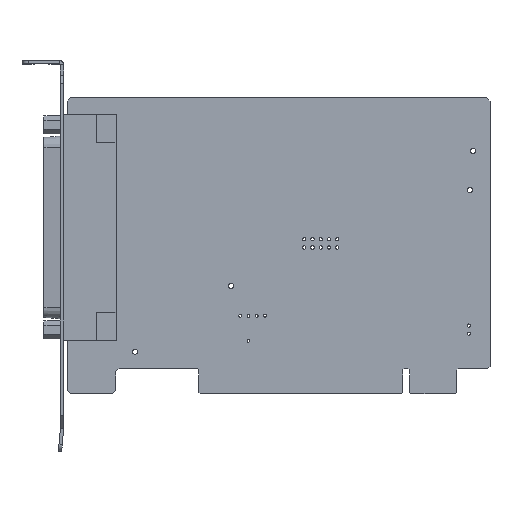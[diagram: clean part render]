
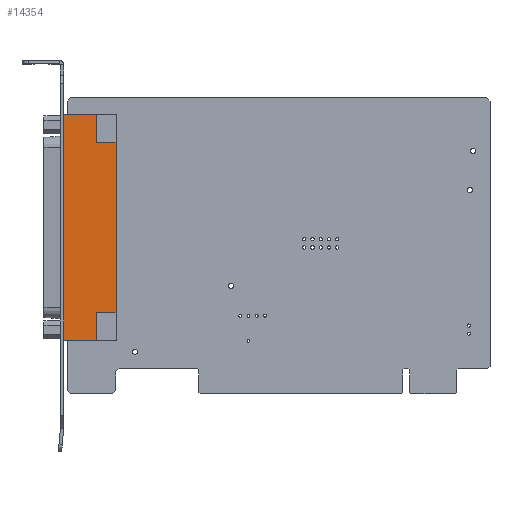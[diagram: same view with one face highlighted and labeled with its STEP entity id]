
A CAD part, top view. The second image highlights one B-rep face of the part: STEP entity #14354.
In plain terms, the highlighted planar face has unit normal (0, 0, 1).
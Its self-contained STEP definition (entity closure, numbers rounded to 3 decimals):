
#822 = VECTOR ( 'NONE', #942, 1000. ) ;
#942 = DIRECTION ( 'NONE',  ( 0., -1., 0. ) ) ;
#1268 = EDGE_CURVE ( 'NONE', #7265, #26143, #19434, .T. ) ;
#1518 = LINE ( 'NONE', #1673, #21638 ) ;
#1612 = PLANE ( 'NONE',  #2580 ) ;
#1673 = CARTESIAN_POINT ( 'NONE',  ( 15.04, 77.278, 12.5 ) ) ;
#2580 = AXIS2_PLACEMENT_3D ( 'NONE', #16004, #4491, #11312 ) ;
#2804 = DIRECTION ( 'NONE',  ( -1., 0., 0. ) ) ;
#3563 = ORIENTED_EDGE ( 'NONE', *, *, #27456, .T. ) ;
#4462 = LINE ( 'NONE', #13695, #23003 ) ;
#4491 = DIRECTION ( 'NONE',  ( 0., 0., 1. ) ) ;
#4798 = CARTESIAN_POINT ( 'NONE',  ( 15.04, 77.278, 12.5 ) ) ;
#4947 = VECTOR ( 'NONE', #26913, 1000. ) ;
#5904 = VECTOR ( 'NONE', #23403, 1000. ) ;
#5937 = VECTOR ( 'NONE', #9288, 1000. ) ;
#6022 = CARTESIAN_POINT ( 'NONE',  ( 9.04, 77.278, 12.5 ) ) ;
#6047 = ORIENTED_EDGE ( 'NONE', *, *, #28763, .T. ) ;
#6471 = CARTESIAN_POINT ( 'NONE',  ( 9.04, 24.978, 12.5 ) ) ;
#7265 = VERTEX_POINT ( 'NONE', #19589 ) ;
#8186 = EDGE_CURVE ( 'NONE', #21897, #13463, #29185, .T. ) ;
#8596 = VERTEX_POINT ( 'NONE', #10770 ) ;
#9288 = DIRECTION ( 'NONE',  ( 0., -1., 0. ) ) ;
#9856 = VECTOR ( 'NONE', #2804, 1000. ) ;
#9927 = LINE ( 'NONE', #19021, #9856 ) ;
#10770 = CARTESIAN_POINT ( 'NONE',  ( 9.04, 16.428, 12.5 ) ) ;
#10846 = CARTESIAN_POINT ( 'NONE',  ( 9.04, 85.828, 12.5 ) ) ;
#11312 = DIRECTION ( 'NONE',  ( 0., 1., 0. ) ) ;
#12885 = CARTESIAN_POINT ( 'NONE',  ( 9.04, 85.828, 12.5 ) ) ;
#13463 = VERTEX_POINT ( 'NONE', #6022 ) ;
#13695 = CARTESIAN_POINT ( 'NONE',  ( 15.04, 16.428, 12.5 ) ) ;
#13700 = EDGE_LOOP ( 'NONE', ( #14838, #15830, #3563, #23227, #26944, #15906, #19541, #6047 ) ) ;
#14354 = ADVANCED_FACE ( 'NONE', ( #20559 ), #1612, .T. ) ;
#14734 = CARTESIAN_POINT ( 'NONE',  ( -1.06, 16.428, 12.5 ) ) ;
#14838 = ORIENTED_EDGE ( 'NONE', *, *, #20988, .F. ) ;
#14999 = CARTESIAN_POINT ( 'NONE',  ( 9.04, 16.428, 12.5 ) ) ;
#15830 = ORIENTED_EDGE ( 'NONE', *, *, #8186, .F. ) ;
#15906 = ORIENTED_EDGE ( 'NONE', *, *, #23923, .F. ) ;
#16004 = CARTESIAN_POINT ( 'NONE',  ( -1.06, 16.428, 12.5 ) ) ;
#16444 = VERTEX_POINT ( 'NONE', #4798 ) ;
#17661 = LINE ( 'NONE', #29333, #4947 ) ;
#18106 = VECTOR ( 'NONE', #27975, 1000. ) ;
#19021 = CARTESIAN_POINT ( 'NONE',  ( -1.06, 85.828, 12.5 ) ) ;
#19434 = LINE ( 'NONE', #14734, #822 ) ;
#19541 = ORIENTED_EDGE ( 'NONE', *, *, #27550, .F. ) ;
#19570 = CARTESIAN_POINT ( 'NONE',  ( -1.06, 16.428, 12.5 ) ) ;
#19589 = CARTESIAN_POINT ( 'NONE',  ( -1.06, 85.828, 12.5 ) ) ;
#20559 = FACE_OUTER_BOUND ( 'NONE', #13700, .T. ) ;
#20988 = EDGE_CURVE ( 'NONE', #13463, #16444, #1518, .T. ) ;
#21638 = VECTOR ( 'NONE', #22735, 1000. ) ;
#21897 = VERTEX_POINT ( 'NONE', #12885 ) ;
#22735 = DIRECTION ( 'NONE',  ( 1., 0., 0. ) ) ;
#22948 = DIRECTION ( 'NONE',  ( 0., 1., 0. ) ) ;
#23003 = VECTOR ( 'NONE', #22948, 1000. ) ;
#23227 = ORIENTED_EDGE ( 'NONE', *, *, #1268, .T. ) ;
#23403 = DIRECTION ( 'NONE',  ( 0., -1., 0. ) ) ;
#23923 = EDGE_CURVE ( 'NONE', #25852, #8596, #28248, .T. ) ;
#25406 = CARTESIAN_POINT ( 'NONE',  ( 15.04, 24.978, 12.5 ) ) ;
#25545 = CARTESIAN_POINT ( 'NONE',  ( 15.04, 24.978, 12.5 ) ) ;
#25807 = EDGE_CURVE ( 'NONE', #26143, #8596, #17661, .T. ) ;
#25852 = VERTEX_POINT ( 'NONE', #6471 ) ;
#26143 = VERTEX_POINT ( 'NONE', #19570 ) ;
#26913 = DIRECTION ( 'NONE',  ( 1., 0., 0. ) ) ;
#26944 = ORIENTED_EDGE ( 'NONE', *, *, #25807, .T. ) ;
#27456 = EDGE_CURVE ( 'NONE', #21897, #7265, #9927, .T. ) ;
#27550 = EDGE_CURVE ( 'NONE', #29321, #25852, #28269, .T. ) ;
#27975 = DIRECTION ( 'NONE',  ( -1., 0., 0. ) ) ;
#28248 = LINE ( 'NONE', #14999, #5904 ) ;
#28269 = LINE ( 'NONE', #25545, #18106 ) ;
#28763 = EDGE_CURVE ( 'NONE', #29321, #16444, #4462, .T. ) ;
#29185 = LINE ( 'NONE', #10846, #5937 ) ;
#29321 = VERTEX_POINT ( 'NONE', #25406 ) ;
#29333 = CARTESIAN_POINT ( 'NONE',  ( -1.06, 16.428, 12.5 ) ) ;
